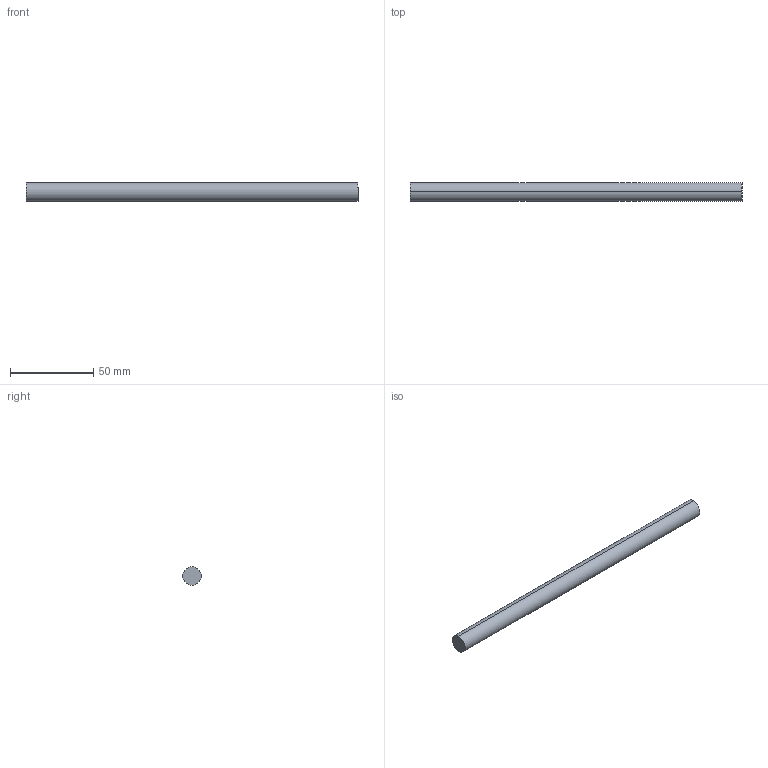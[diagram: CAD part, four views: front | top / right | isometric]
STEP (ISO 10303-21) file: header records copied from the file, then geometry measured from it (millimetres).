
FILE_DESCRIPTION (( 'STEP AP214' ), '1' );
FILE_NAME ('Querreling_2S-Rel_7102_KAB-300.step', '2010-09-22T15:05:48', ( 'grass' ), ( '' ), 'SwSTEP 2.0', 'SolidWorks 2010', '' );
FILE_SCHEMA (( 'AUTOMOTIVE_DESIGN' ));
Length unit declared in the file: millimetre
Products named in the file (1): Querreling_2S-Rel_7102_KAB-300
Bounding box: 199 x 11 x 11 mm (x, y, z)
Volume: 18911.6 mm3; surface area: 7067 mm2
Topology: 1 solids, 1 shells, 4 faces, 6 edges, 4 vertices
Faces by surface type: cylinder 2, plane 2
Entity records: 128 total; most frequent: DIRECTION 20, CARTESIAN_POINT 15, ORIENTED_EDGE 12, AXIS2_PLACEMENT_3D 9, EDGE_CURVE 6, VERTEX_POINT 4, EDGE_LOOP 4, FACE_OUTER_BOUND 4
